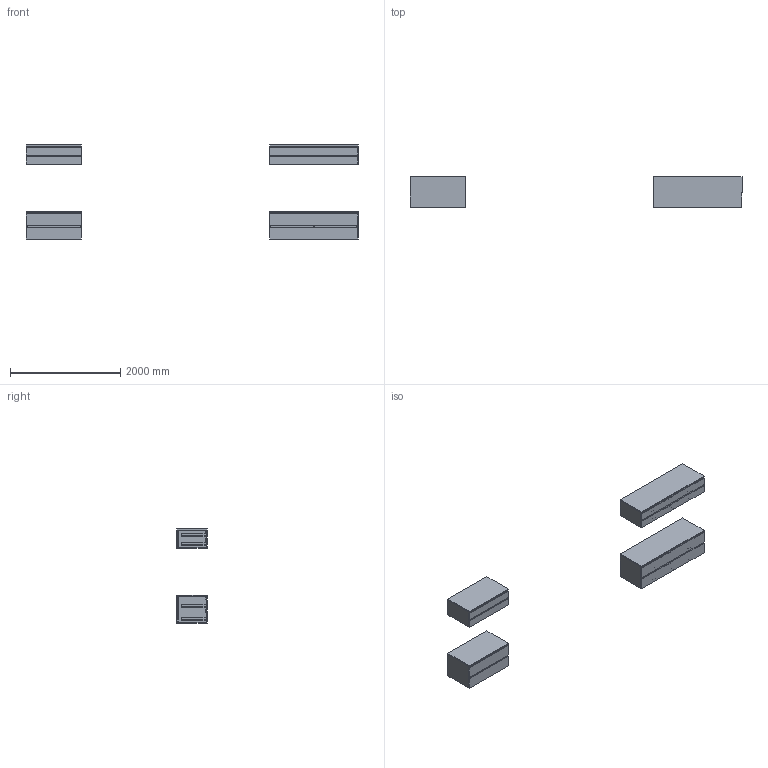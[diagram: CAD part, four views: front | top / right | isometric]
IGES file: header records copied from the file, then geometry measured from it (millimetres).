
Global section: file name: \\Archi-NAS\Comune\X GIOVANNI\MOBILI\EMOTION\EMOTION_7.igs; native system: Rhinoceros ( Feb 23 2021 ); preprocessor: Trout Lake IGES 012 Feb 23 2021; date: 230608.071930; units: millimetre
Bounding box: 6011.91 x 550 x 1702.92 mm (x, y, z)
Surface area: 37243424.6 mm2 (no closed solid volume)
Topology: 0 solids, 0 shells, 540 faces, 2184 edges, 2184 vertices
Faces by surface type: bspline 540
